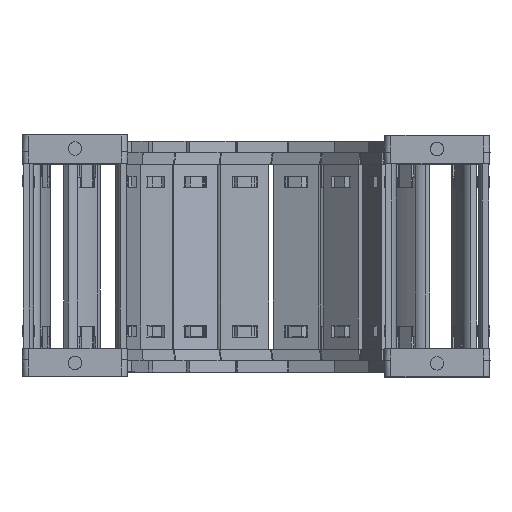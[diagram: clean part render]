
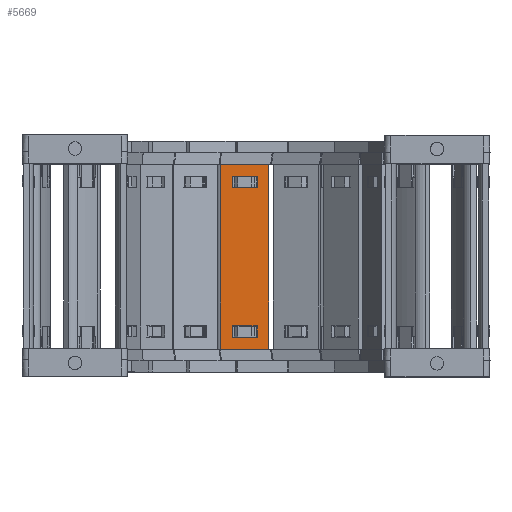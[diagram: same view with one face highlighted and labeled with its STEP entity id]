
A CAD part, top view. The second image highlights one B-rep face of the part: STEP entity #5669.
In plain terms, the highlighted planar face has unit normal (0.035, 0, 0.999) as drawn and (0, 1, 0) by its records, which use the part's own axes.
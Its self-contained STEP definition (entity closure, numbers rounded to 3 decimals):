
#5089=DIRECTION('',(0.,0.,1.));
#5090=VECTOR('',#5089,15.8);
#5091=CARTESIAN_POINT('',(45.74,1.5,-7.9));
#5092=LINE('',#5091,#5090);
#5093=DIRECTION('',(-1.,0.,0.));
#5094=VECTOR('',#5093,60.5);
#5095=CARTESIAN_POINT('',(45.74,1.5,7.9));
#5096=LINE('',#5095,#5094);
#5097=DIRECTION('',(0.,0.,-1.));
#5098=VECTOR('',#5097,15.8);
#5099=CARTESIAN_POINT('',(-14.76,1.5,7.9));
#5100=LINE('',#5099,#5098);
#5101=DIRECTION('',(1.,0.,0.));
#5102=VECTOR('',#5101,3.648);
#5103=CARTESIAN_POINT('',(38.122,1.5,4.075));
#5104=LINE('',#5103,#5102);
#5105=DIRECTION('',(0.,0.,-1.));
#5106=VECTOR('',#5105,8.15);
#5107=CARTESIAN_POINT('',(41.77,1.5,4.075));
#5108=LINE('',#5107,#5106);
#5109=DIRECTION('',(-1.,0.,0.));
#5110=VECTOR('',#5109,3.648);
#5111=CARTESIAN_POINT('',(41.77,1.5,-4.075));
#5112=LINE('',#5111,#5110);
#5113=DIRECTION('',(0.,0.,-1.));
#5114=VECTOR('',#5113,8.15);
#5115=CARTESIAN_POINT('',(-7.142,1.5,4.075));
#5116=LINE('',#5115,#5114);
#5117=DIRECTION('',(-1.,0.,0.));
#5118=VECTOR('',#5117,3.648);
#5119=CARTESIAN_POINT('',(-7.142,1.5,-4.075));
#5120=LINE('',#5119,#5118);
#5121=DIRECTION('',(0.,0.,1.));
#5122=VECTOR('',#5121,8.15);
#5123=CARTESIAN_POINT('',(-10.79,1.5,-4.075));
#5124=LINE('',#5123,#5122);
#5125=DIRECTION('',(1.,0.,0.));
#5126=VECTOR('',#5125,3.648);
#5127=CARTESIAN_POINT('',(-10.79,1.5,4.075));
#5128=LINE('',#5127,#5126);
#5133=DIRECTION('',(-1.,0.,0.));
#5134=VECTOR('',#5133,60.5);
#5135=CARTESIAN_POINT('',(45.74,1.5,-7.9));
#5136=LINE('',#5135,#5134);
#5254=DIRECTION('',(0.,0.,-1.));
#5255=VECTOR('',#5254,8.15);
#5256=CARTESIAN_POINT('',(38.122,1.5,4.075));
#5257=LINE('',#5256,#5255);
#5439=CARTESIAN_POINT('',(41.77,1.5,4.075));
#5440=VERTEX_POINT('',#5439);
#5441=CARTESIAN_POINT('',(38.122,1.5,4.075));
#5442=VERTEX_POINT('',#5441);
#5483=CARTESIAN_POINT('',(38.122,1.5,-4.075));
#5484=VERTEX_POINT('',#5483);
#5485=CARTESIAN_POINT('',(41.77,1.5,-4.075));
#5486=VERTEX_POINT('',#5485);
#5487=CARTESIAN_POINT('',(45.74,1.5,7.9));
#5489=VERTEX_POINT('',#5487);
#5491=CARTESIAN_POINT('',(45.74,1.5,-7.9));
#5492=VERTEX_POINT('',#5491);
#5515=CARTESIAN_POINT('',(-7.142,1.5,4.075));
#5516=CARTESIAN_POINT('',(-7.142,1.5,-4.075));
#5517=VERTEX_POINT('',#5515);
#5518=VERTEX_POINT('',#5516);
#5519=CARTESIAN_POINT('',(-10.79,1.5,-4.075));
#5520=VERTEX_POINT('',#5519);
#5521=CARTESIAN_POINT('',(-10.79,1.5,4.075));
#5522=VERTEX_POINT('',#5521);
#5523=CARTESIAN_POINT('',(-14.76,1.5,7.9));
#5524=VERTEX_POINT('',#5523);
#5527=CARTESIAN_POINT('',(-14.76,1.5,-7.9));
#5528=VERTEX_POINT('',#5527);
#5638=CARTESIAN_POINT('',(77.48,1.5,10.061));
#5639=DIRECTION('',(0.,-1.,0.));
#5640=DIRECTION('',(0.,0.,-1.));
#5641=AXIS2_PLACEMENT_3D('',#5638,#5639,#5640);
#5642=PLANE('',#5641);
#5643=ORIENTED_EDGE('',*,*,#5577,.T.);
#5644=ORIENTED_EDGE('',*,*,#5603,.T.);
#5645=ORIENTED_EDGE('',*,*,#5616,.T.);
#5647=ORIENTED_EDGE('',*,*,#5646,.F.);
#5648=EDGE_LOOP('',(#5643,#5644,#5645,#5647));
#5649=FACE_OUTER_BOUND('',#5648,.F.);
#5651=ORIENTED_EDGE('',*,*,#5650,.F.);
#5652=ORIENTED_EDGE('',*,*,#5540,.T.);
#5654=ORIENTED_EDGE('',*,*,#5653,.T.);
#5656=ORIENTED_EDGE('',*,*,#5655,.T.);
#5657=EDGE_LOOP('',(#5651,#5652,#5654,#5656));
#5658=FACE_BOUND('',#5657,.F.);
#5660=ORIENTED_EDGE('',*,*,#5659,.T.);
#5662=ORIENTED_EDGE('',*,*,#5661,.T.);
#5664=ORIENTED_EDGE('',*,*,#5663,.T.);
#5666=ORIENTED_EDGE('',*,*,#5665,.T.);
#5667=EDGE_LOOP('',(#5660,#5662,#5664,#5666));
#5668=FACE_BOUND('',#5667,.F.);
#5669=ADVANCED_FACE('',(#5649,#5658,#5668),#5642,.F.);
#5540=EDGE_CURVE('',#5442,#5440,#5104,.T.);
#5577=EDGE_CURVE('',#5492,#5489,#5092,.T.);
#5603=EDGE_CURVE('',#5489,#5524,#5096,.T.);
#5616=EDGE_CURVE('',#5524,#5528,#5100,.T.);
#5646=EDGE_CURVE('',#5492,#5528,#5136,.T.);
#5650=EDGE_CURVE('',#5442,#5484,#5257,.T.);
#5653=EDGE_CURVE('',#5440,#5486,#5108,.T.);
#5655=EDGE_CURVE('',#5486,#5484,#5112,.T.);
#5659=EDGE_CURVE('',#5517,#5518,#5116,.T.);
#5661=EDGE_CURVE('',#5518,#5520,#5120,.T.);
#5663=EDGE_CURVE('',#5520,#5522,#5124,.T.);
#5665=EDGE_CURVE('',#5522,#5517,#5128,.T.);
